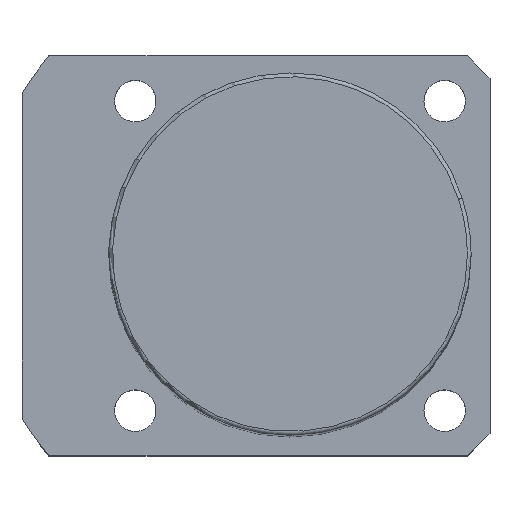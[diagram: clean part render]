
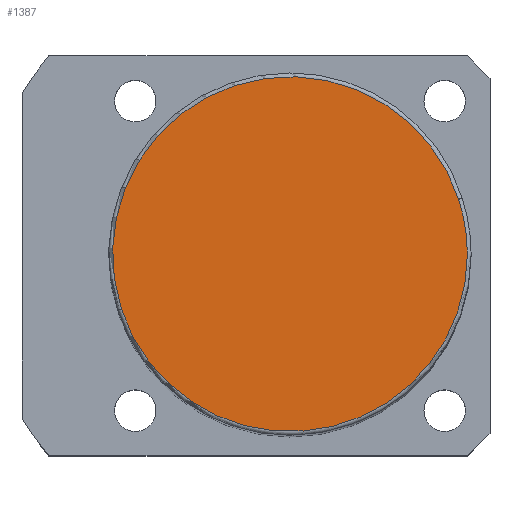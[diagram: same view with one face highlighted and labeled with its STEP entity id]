
A CAD part, top view. The second image highlights one B-rep face of the part: STEP entity #1387.
In plain terms, the highlighted planar face has unit normal (0, 0, 1).
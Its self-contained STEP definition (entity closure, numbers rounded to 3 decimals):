
#1320=CARTESIAN_POINT('',(22.35,7.262,144.0));
#1321=VERTEX_POINT('',#1320);
#1339=CARTESIAN_POINT('',(-22.35,-7.262,144.0));
#1340=VERTEX_POINT('',#1339);
#1348=CARTESIAN_POINT('',(0.0,0.0,144.0));
#1349=DIRECTION('',(0.0,0.0,1.0));
#1350=DIRECTION('',(1.0,0.0,0.0));
#1351=AXIS2_PLACEMENT_3D('',#1348,#1349,#1350);
#1352=CIRCLE('',#1351,23.5);
#1353=EDGE_CURVE('no 3363',#1321,#1340,#1352,.T.);
#1363=CARTESIAN_POINT('',(23.5,0.0,144.0));
#1364=VERTEX_POINT('',#1363);
#1365=CARTESIAN_POINT('',(0.0,0.0,144.0));
#1366=DIRECTION('',(0.0,0.0,1.0));
#1367=DIRECTION('',(1.0,0.0,0.0));
#1368=AXIS2_PLACEMENT_3D('',#1365,#1366,#1367);
#1369=CIRCLE('',#1368,23.5);
#1370=EDGE_CURVE('no 3372',#1364,#1321,#1369,.T.);
#1371=ORIENTED_EDGE('',*,*,#1370,.T.);
#1372=ORIENTED_EDGE('',*,*,#1353,.T.);
#1373=CARTESIAN_POINT('',(0.0,0.0,144.0));
#1374=DIRECTION('',(0.0,0.0,1.0));
#1375=DIRECTION('',(1.0,0.0,0.0));
#1376=AXIS2_PLACEMENT_3D('',#1373,#1374,#1375);
#1377=CIRCLE('',#1376,23.5);
#1378=EDGE_CURVE('no 3378',#1340,#1364,#1377,.T.);
#1379=ORIENTED_EDGE('',*,*,#1378,.T.);
#1380=EDGE_LOOP('',(#1371,#1372,#1379));
#1381=FACE_OUTER_BOUND('',#1380,.T.);
#1382=CARTESIAN_POINT('',(0.0,0.0,144.0));
#1383=DIRECTION('',(0.0,0.0,1.0));
#1384=DIRECTION('',(1.0,0.0,0.0));
#1385=AXIS2_PLACEMENT_3D('',#1382,#1383,#1384);
#1386=PLANE('',#1385);
#1387=ADVANCED_FACE('no 3365',(#1381),#1386,.T.);
